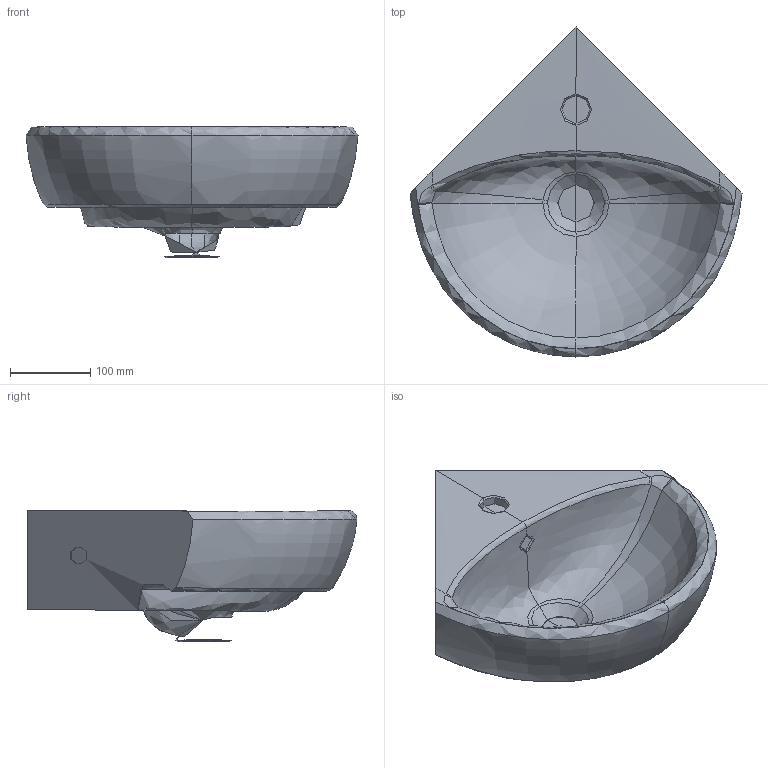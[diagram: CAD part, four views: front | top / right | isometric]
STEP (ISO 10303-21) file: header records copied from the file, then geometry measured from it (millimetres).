
FILE_DESCRIPTION(/* description */ (''),/* implementation_level */ '2;1');
FILE_NAME(/* name */ 'C:\Planerdaten\Export PLA\500.326.01.1\stp\500326.stp',/* time_stamp */ '2020-05-27T08:46:06+02:00',/* author */ ('seihe2'),/* organization */ (''),/* preprocessor_version */ 'ST-DEVELOPER v16.13',/* originating_system */ 'Autodesk Inventor 2018',/* authorisation */ '');
FILE_SCHEMA (('AUTOMOTIVE_DESIGN { 1 0 10303 214 3 1 1 }'));
Length unit declared in the file: millimetre
Products named in the file (1): EHWB Ge+Snv B41.4 m/ÜLF m/HLo
Bounding box: 414 x 411.5 x 164 mm (x, y, z)
Volume: 6585449.7 mm3; surface area: 396882.2 mm2
Topology: 1 solids, 4 shells, 120 faces, 271 edges, 155 vertices
Faces by surface type: bspline 96, plane 14, cylinder 6, cone 2, sphere 1, torus 1
Full cylindrical faces by diameter (mm): 46 x2
Entity records: 28209 total; most frequent: CARTESIAN_POINT 26108, ORIENTED_EDGE 524, EDGE_CURVE 262, DIRECTION 199, B_SPLINE_CURVE_WITH_KNOTS 166, VERTEX_POINT 152, EDGE_LOOP 124, STYLED_ITEM 120
